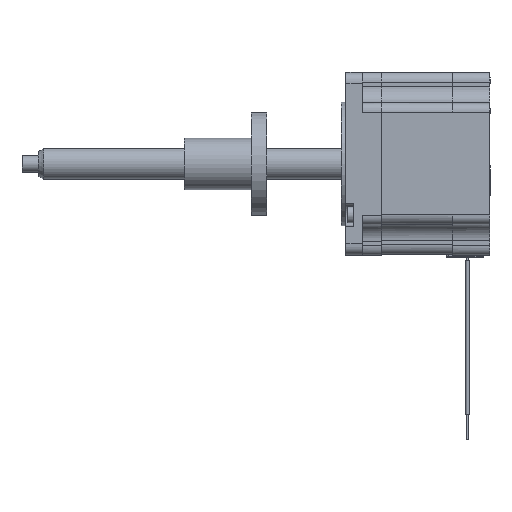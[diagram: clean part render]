
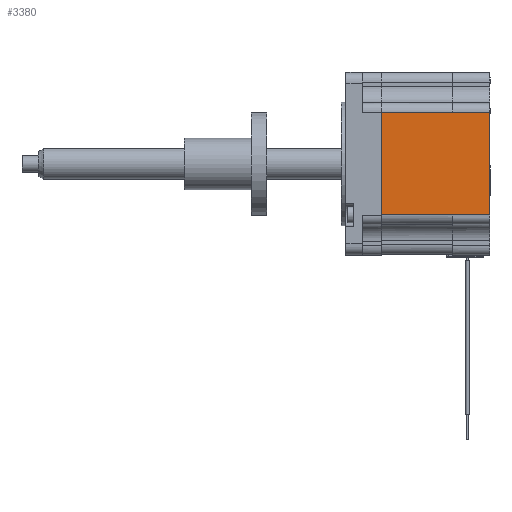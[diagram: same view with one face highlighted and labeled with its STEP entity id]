
A CAD part, top view. The second image highlights one B-rep face of the part: STEP entity #3380.
In plain terms, the highlighted planar face has unit normal (0, 0, 1).
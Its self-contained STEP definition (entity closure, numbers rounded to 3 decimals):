
#2874=CARTESIAN_POINT('',(22.014,-22.055,37.387));
#2875=VERTEX_POINT('',#2874);
#2876=CARTESIAN_POINT('',(22.014,9.545,37.387));
#2877=VERTEX_POINT('',#2876);
#2878=CARTESIAN_POINT('',(22.014,-22.055,37.387));
#2879=DIRECTION('',(0.,1.,0.));
#2880=VECTOR('',#2879,31.6);
#2881=LINE('',#2878,#2880);
#2882=EDGE_CURVE('',#2875,#2877,#2881,.T.);
#3145=CARTESIAN_POINT('',(44.014,9.545,37.386));
#3146=VERTEX_POINT('',#3145);
#3147=CARTESIAN_POINT('',(22.014,9.545,37.387));
#3148=DIRECTION('',(1.,0.,0.));
#3149=VECTOR('',#3148,22.);
#3150=LINE('',#3147,#3149);
#3151=EDGE_CURVE('',#2877,#3146,#3150,.T.);
#3204=CARTESIAN_POINT('',(44.014,-22.132,37.386));
#3205=VERTEX_POINT('',#3204);
#3213=CARTESIAN_POINT('',(44.014,-22.055,37.387));
#3214=VERTEX_POINT('',#3213);
#3215=CARTESIAN_POINT('',(44.014,-22.132,37.386));
#3216=DIRECTION('',(0.,1.,0.006));
#3217=VECTOR('',#3216,0.077);
#3218=LINE('',#3215,#3217);
#3219=EDGE_CURVE('',#3205,#3214,#3218,.T.);
#3221=CARTESIAN_POINT('',(44.014,-22.055,37.387));
#3222=DIRECTION('',(-1.,0.,0.));
#3223=VECTOR('',#3222,22.);
#3224=LINE('',#3221,#3223);
#3225=EDGE_CURVE('',#3214,#2875,#3224,.T.);
#3339=CARTESIAN_POINT('',(38.764,-6.294,37.387));
#3340=DIRECTION('',(0.,1.,0.));
#3341=DIRECTION('',(0.,0.,1.));
#3342=AXIS2_PLACEMENT_3D('',#3339,#3341,#3340);
#3343=PLANE('',#3342);
#3344=CARTESIAN_POINT('',(44.014,9.421,37.387));
#3345=VERTEX_POINT('',#3344);
#3346=CARTESIAN_POINT('',(44.014,9.421,37.387));
#3347=DIRECTION('',(0.,1.,-0.005));
#3348=VECTOR('',#3347,0.123);
#3349=LINE('',#3346,#3348);
#3350=EDGE_CURVE('',#3345,#3146,#3349,.T.);
#3351=ORIENTED_EDGE('E295',*,*,#3350,.T.);
#3352=ORIENTED_EDGE('E295',*,*,#3151,.F.);
#3353=ORIENTED_EDGE('E295',*,*,#2882,.F.);
#3354=ORIENTED_EDGE('E295',*,*,#3225,.F.);
#3355=ORIENTED_EDGE('E295',*,*,#3219,.F.);
#3356=CARTESIAN_POINT('',(55.514,-22.132,37.387));
#3357=VERTEX_POINT('',#3356);
#3358=CARTESIAN_POINT('',(44.014,-22.132,37.386));
#3359=DIRECTION('',(1.,0.,0.));
#3360=VECTOR('',#3359,11.5);
#3361=LINE('',#3358,#3360);
#3362=EDGE_CURVE('',#3205,#3357,#3361,.T.);
#3363=ORIENTED_EDGE('E296',*,*,#3362,.T.);
#3364=CARTESIAN_POINT('',(55.514,9.421,37.387));
#3365=VERTEX_POINT('',#3364);
#3366=CARTESIAN_POINT('',(55.514,-22.132,37.387));
#3367=DIRECTION('',(0.,1.,0.));
#3368=VECTOR('',#3367,31.553);
#3369=LINE('',#3366,#3368);
#3370=EDGE_CURVE('',#3357,#3365,#3369,.T.);
#3371=ORIENTED_EDGE('E297',*,*,#3370,.T.);
#3372=CARTESIAN_POINT('',(55.514,9.421,37.387));
#3373=DIRECTION('',(-1.,0.,0.));
#3374=VECTOR('',#3373,11.5);
#3375=LINE('',#3372,#3374);
#3376=EDGE_CURVE('',#3365,#3345,#3375,.T.);
#3377=ORIENTED_EDGE('E298',*,*,#3376,.T.);
#3378=EDGE_LOOP('',(#3351,#3352,#3353,#3354,#3355,#3363,#3371,#3377));
#3379=FACE_OUTER_BOUND('',#3378,.T.);
#3380=ADVANCED_FACE('F98',(#3379),#3343,.T.);
